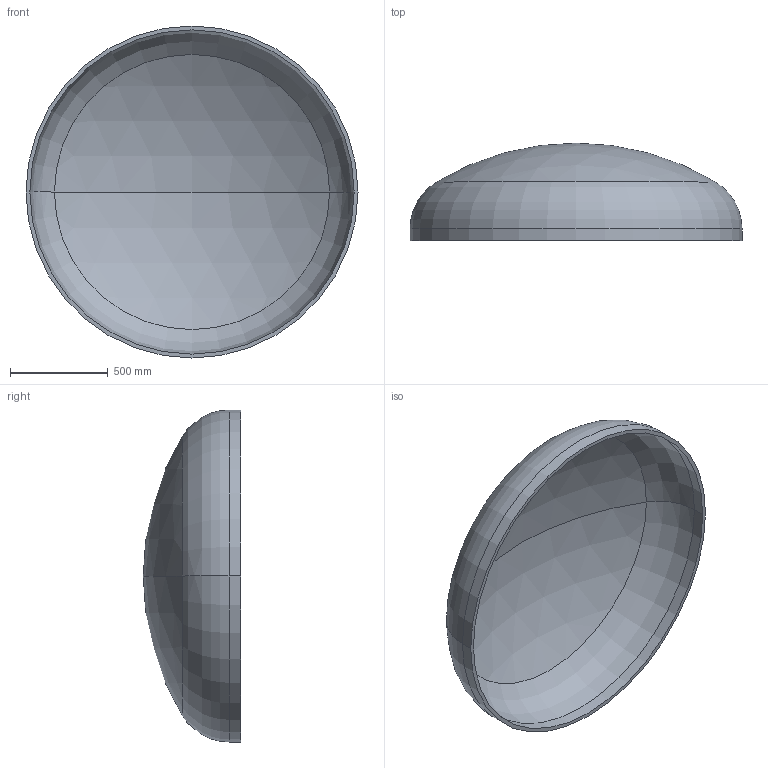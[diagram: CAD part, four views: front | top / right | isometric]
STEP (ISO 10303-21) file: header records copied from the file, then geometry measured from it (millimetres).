
FILE_DESCRIPTION (( 'STEP AP203' ), '1' );
FILE_NAME ('DIN 28013 Korbbogenform_-_Boden DIN 28013 - 1700 x 60 - I - s=20.step', '2016-07-01T11:40:30', ( '' ), ( '' ), 'SwSTEP 2.0', 'SolidWorks 2013', '' );
FILE_SCHEMA (( 'CONFIG_CONTROL_DESIGN' ));
Length unit declared in the file: millimetre
Products named in the file (1): DIN 28013 Korbbogenform_-_Boden DIN 28013 - 1700 x 60 - I - s=20
Bounding box: 1700 x 499.2 x 1700 mm (x, y, z)
Volume: 68152164.7 mm3; surface area: 6921609.3 mm2
Topology: 1 solids, 1 shells, 13 faces, 24 edges, 14 vertices
Faces by surface type: torus 4, cylinder 4, sphere 4, plane 1
Entity records: 407 total; most frequent: DIRECTION 72, CARTESIAN_POINT 52, ORIENTED_EDGE 48, AXIS2_PLACEMENT_3D 34, EDGE_CURVE 24, CIRCLE 20, EDGE_LOOP 14, VERTEX_POINT 14
